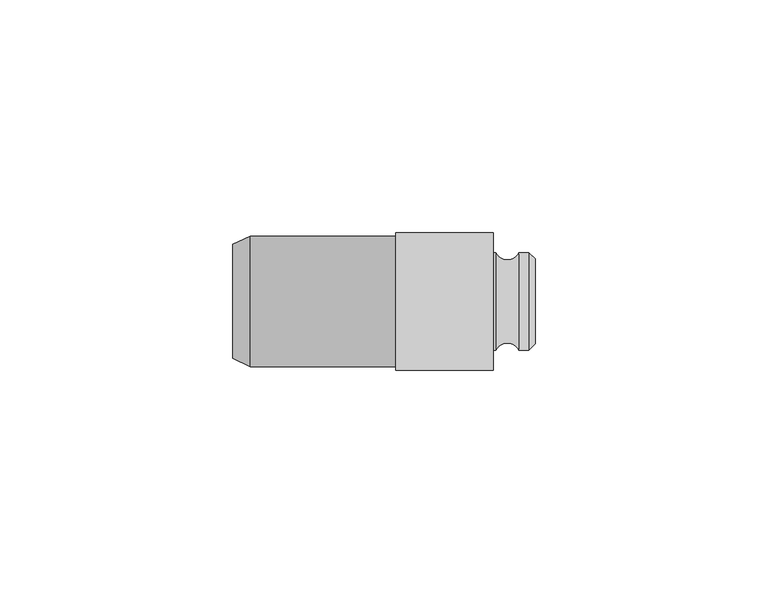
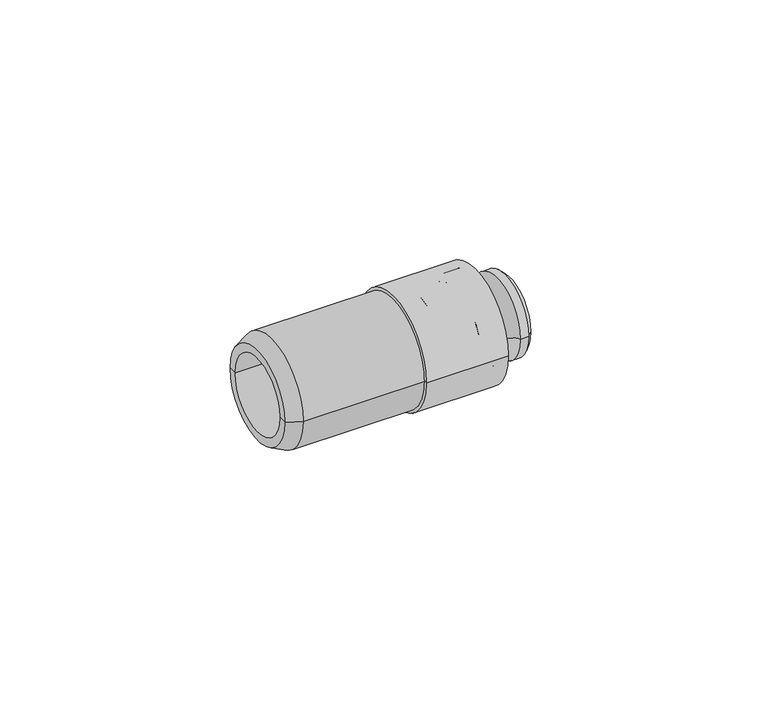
"""IFC4 building model written with IfcOpenShell, lengths in millimetres: pipe fitting geometry, NLRS_50_PIF_UN_PushFit snelkoppeling_geb : DN12-20-M25 / d16-25-M25."""

from ifc_helpers import new_model, si_unit, point, frame, origin, place, context, project, spatial, polyline, circle_curve, ellipse_curve, trimmed, source, transform, mapped, element, save
from ifc_brep_helpers import plane_surface, cylinder_surface, revolved_surface, advanced_brep


def pipe_fitting_5ea2550a(model_context):
    return source(origin(), model_context, "Body", "AdvancedBrep", [
        advanced_brep(
        [(23.5, 14.75, 0.0), (23.5, -14.75, 0.0), (2.5, -14.75, 0.0), (2.5, 14.75, 0.0), (23.5, 12.75, 0.0), (23.5, -12.75, 0.0), (7.5, 12.75, 0.0), (7.5, -12.75, 0.0), (7.5, 0.0, 0.0), (2.5, 0.0, 0.0)],
        [
            (0, 1, circle_curve(frame((23.5, 0.0, 0.0), z_axis=(-1.0, 0.0, 0.0), x_axis=(0.0, -1.0000000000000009, 0.0)), 14.75)),
            (1, 2),
            (2, 3, circle_curve(frame((2.5, 0.0, 0.0), z_axis=(1.0, 0.0, 0.0), x_axis=(0.0, -1.0000000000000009, 0.0)), 14.75)),
            (3, 0),
            (1, 0, circle_curve(frame((23.5, 0.0, 0.0), z_axis=(-1.0, 0.0, 0.0), x_axis=(0.0, -1.0000000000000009, 0.0)), 14.75)),
            (3, 2, circle_curve(frame((2.5, 0.0, 0.0), z_axis=(1.0, 0.0, 0.0), x_axis=(0.0, -1.0000000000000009, 0.0)), 14.75)),
            (4, 5, circle_curve(frame((23.5, 0.0, 0.0), z_axis=(-1.0, 0.0, 0.0), x_axis=(0.0, -1.0000000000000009, 0.0)), 12.75)),
            (5, 1),
            (0, 4),
            (5, 4, circle_curve(frame((23.5, 0.0, 0.0), z_axis=(-1.0, 0.0, 0.0), x_axis=(0.0, -1.0000000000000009, 0.0)), 12.75)),
            (6, 7, circle_curve(frame((7.5, 0.0, 0.0), z_axis=(-1.0, 0.0, 0.0), x_axis=(0.0, -1.0000000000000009, 0.0)), 12.75)),
            (7, 5),
            (4, 6),
            (7, 6, circle_curve(frame((7.5, 0.0, 0.0), z_axis=(-1.0, 0.0, 0.0), x_axis=(0.0, -1.0000000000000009, 0.0)), 12.75)),
            (8, 7),
            (6, 8),
            (2, 9),
            (9, 3),
        ],
        [
            cylinder_surface(frame((38.5, 0.0, 0.0), z_axis=(1.0000000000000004, 0.0, 0.0), x_axis=(0.0, -1.0000000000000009, 0.0)), 14.75),
            plane_surface(frame((23.5, 0.0, 0.0), z_axis=(1.0, 0.0, 0.0), x_axis=(0.0, -1.0, 0.0))),
            revolved_surface(polyline([(23.499999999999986, -12.75000000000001, 0.0), (7.499999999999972, -12.75000000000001, 0.0)]), (38.5, 0.0, 0.0), (1.0000000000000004, 0.0, 0.0)),
            plane_surface(frame((7.5, 0.0, 0.0), z_axis=(1.0, 0.0, 0.0), x_axis=(0.0, -1.0, 0.0))),
            plane_surface(frame((2.5, 0.0, 0.0), z_axis=(-1.0, 0.0, 0.0), x_axis=(0.0, -1.0, 0.0))),
        ],
        [
            (0, [[1, 2, 3, 4]]),
            (0, [[5, -4, 6, -2]]),
            (1, [[7, 8, -1, 9]]),
            (1, [[10, -9, -5, -8]]),
            (2, [[11, 12, -7, 13]]),
            (2, [[14, -13, -10, -12]]),
            (3, [[15, -11, 16]]),
            (3, [[-16, -14, -15]]),
            (4, [[-3, 17, 18]]),
            (4, [[-6, -18, -17]]),
        ],
    ),
        advanced_brep(
        [(16.1195019, 10.5, 0.0), (16.1195019, -10.5, 0.0), (8.9, -10.5, 0.0), (8.9, 10.5, 0.0), (18.8804981, 10.5, 0.0), (18.8804981, -10.5, 0.0), (24.0, 10.5, 0.0), (24.0, -10.5, 0.0), (29.0, 10.5, 0.0), (29.0, -10.5, 0.0), (31.1212479, 10.5, 0.0), (31.1212479, -10.5, 0.0), (32.5, 0.0, 0.0), (32.5, -9.1212479, 0.0), (32.5, 9.1212479, 0.0), (7.5, 12.5, 0.0), (7.5, -12.5, 0.0), (7.5, 0.0, 0.0), (8.9, 12.5, 0.0), (8.9, -12.5, 0.0)],
        [
            (0, 1, circle_curve(frame((16.1195019, 0.0, 0.0), z_axis=(-1.0, 0.0, 0.0), x_axis=(0.0, -1.0000000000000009, 0.0)), 10.5)),
            (1, 2),
            (2, 3, circle_curve(frame((8.9, 0.0, 0.0), z_axis=(1.0, 0.0, 0.0), x_axis=(0.0, -1.0000000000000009, 0.0)), 10.5)),
            (3, 0),
            (1, 0, circle_curve(frame((16.1195019, 0.0, 0.0), z_axis=(-1.0, 0.0, 0.0), x_axis=(0.0, -1.0000000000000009, 0.0)), 10.5)),
            (3, 2, circle_curve(frame((8.9, 0.0, 0.0), z_axis=(1.0, 0.0, 0.0), x_axis=(0.0, -1.0000000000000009, 0.0)), 10.5)),
            (4, 5, circle_curve(frame((18.8804981, 0.0, 0.0), z_axis=(-1.0, 0.0, 0.0), x_axis=(0.0, -1.0000000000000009, 0.0)), 10.5)),
            (5, 1, circle_curve(frame((17.5, -10.0311513, 0.0), z_axis=(0.0, 0.0, -1.0000000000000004), x_axis=(-1.0000000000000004, 0.0, 0.0)), 1.4579417)),
            (0, 4, circle_curve(frame((17.5, 10.0311513, 0.0), z_axis=(0.0, 0.0, -1.0000000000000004), x_axis=(-1.0000000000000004, 0.0, 0.0)), 1.4579417)),
            (5, 4, circle_curve(frame((18.8804981, 0.0, 0.0), z_axis=(-1.0, 0.0, 0.0), x_axis=(0.0, -1.0000000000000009, 0.0)), 10.5)),
            (6, 7, circle_curve(frame((24.0, 0.0, 0.0), z_axis=(-1.0, 0.0, 0.0), x_axis=(0.0, -1.0000000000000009, 0.0)), 10.5)),
            (7, 5),
            (4, 6),
            (7, 6, circle_curve(frame((24.0, 0.0, 0.0), z_axis=(-1.0, 0.0, 0.0), x_axis=(0.0, -1.0000000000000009, 0.0)), 10.5)),
            (8, 9, circle_curve(frame((29.0, 0.0, 0.0), z_axis=(-1.0, 0.0, 0.0), x_axis=(0.0, -1.0000000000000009, 0.0)), 10.5)),
            (9, 7, circle_curve(frame((26.5, -11.7233153, 0.0), z_axis=(0.0, 0.0, 1.0000000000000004), x_axis=(-1.0000000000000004, 0.0, 0.0)), 2.7832535)),
            (6, 8, circle_curve(frame((26.5, 11.7233153, 0.0), z_axis=(0.0, 0.0, 1.0000000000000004), x_axis=(-1.0000000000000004, 0.0, 0.0)), 2.7832535)),
            (9, 8, circle_curve(frame((29.0, 0.0, 0.0), z_axis=(-1.0, 0.0, 0.0), x_axis=(0.0, -1.0000000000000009, 0.0)), 10.5)),
            (10, 11, circle_curve(frame((31.1212479, 0.0, 0.0), z_axis=(-1.0, 0.0, 0.0), x_axis=(0.0, -1.0000000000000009, 0.0)), 10.5)),
            (11, 9),
            (8, 10),
            (11, 10, circle_curve(frame((31.1212479, 0.0, 0.0), z_axis=(-1.0, 0.0, 0.0), x_axis=(0.0, -1.0000000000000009, 0.0)), 10.5)),
            (12, 13),
            (13, 14, circle_curve(frame((32.5, 0.0, 0.0), z_axis=(1.0, 0.0, 0.0), x_axis=(0.0, -1.0000000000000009, 0.0)), 9.1212479)),
            (14, 12),
            (14, 13, circle_curve(frame((32.5, 0.0, 0.0), z_axis=(1.0, 0.0, 0.0), x_axis=(0.0, -1.0000000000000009, 0.0)), 9.1212479)),
            (15, 16, circle_curve(frame((7.5, 0.0, 0.0), z_axis=(-1.0, 0.0, 0.0), x_axis=(0.0, -1.0000000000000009, 0.0)), 12.5)),
            (16, 17),
            (17, 15),
            (16, 15, circle_curve(frame((7.5, 0.0, 0.0), z_axis=(-1.0, 0.0, 0.0), x_axis=(0.0, -1.0000000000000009, 0.0)), 12.5)),
            (18, 19, circle_curve(frame((8.9, 0.0, 0.0), z_axis=(-1.0, 0.0, 0.0), x_axis=(0.0, -1.0000000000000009, 0.0)), 12.5)),
            (19, 16, circle_curve(frame((8.2, -12.5, 0.0), z_axis=(0.0, 0.0, -1.0000000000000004), x_axis=(-1.0000000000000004, 0.0, 0.0)), 0.7)),
            (15, 18, circle_curve(frame((8.2, 12.5, 0.0), z_axis=(0.0, 0.0, -1.0000000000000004), x_axis=(-1.0000000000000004, 0.0, 0.0)), 0.7)),
            (19, 18, circle_curve(frame((8.9, 0.0, 0.0), z_axis=(-1.0, 0.0, 0.0), x_axis=(0.0, -1.0000000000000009, 0.0)), 12.5)),
            (2, 19),
            (18, 3),
            (13, 11),
            (10, 14),
        ],
        [
            cylinder_surface(frame((40.7935438, 0.0, 0.0), z_axis=(1.0000000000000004, 0.0, 0.0), x_axis=(0.0, -1.0000000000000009, 0.0)), 10.5),
            revolved_surface(trimmed(ellipse_curve(frame((17.5, -10.0311513, 0.0), z_axis=(0.0, 0.0, 1.0000000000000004), x_axis=(-1.0000000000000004, 0.0, 0.0)), 1.4579417, 1.4579417), [point((16.1195019, -10.5, 0.0))], [point((18.8804981, -10.5, 0.0))], True, "CARTESIAN"), (40.7935438, 0.0, 0.0), (1.0000000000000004, 0.0, 0.0)),
            revolved_surface(trimmed(ellipse_curve(frame((26.5, -11.7233153, 0.0), z_axis=(0.0, 0.0, -1.0000000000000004), x_axis=(-1.0000000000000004, 0.0, 0.0)), 2.7832535, 2.7832535), [point((24.0, -10.5, 0.0))], [point((29.0, -10.5, 0.0))], True, "CARTESIAN"), (40.7935438, 0.0, 0.0), (1.0000000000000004, 0.0, 0.0)),
            plane_surface(frame((32.5, 0.0, 0.0), z_axis=(1.0, 0.0, 0.0), x_axis=(0.0, -1.0, 0.0))),
            plane_surface(frame((7.5, 0.0, 0.0), z_axis=(-1.0, 0.0, 0.0), x_axis=(0.0, -1.0, 0.0))),
            revolved_surface(trimmed(ellipse_curve(frame((8.2, -12.5, 0.0), z_axis=(0.0, 0.0, 1.0000000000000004), x_axis=(-1.0000000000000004, 0.0, 0.0)), 0.7, 0.7), [point((7.5, -12.5, 0.0))], [point((8.9, -12.5, 0.0))], True, "CARTESIAN"), (40.7935438, 0.0, 0.0), (1.0000000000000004, 0.0, 0.0)),
            plane_surface(frame((8.9, 0.0, 0.0), z_axis=(1.0, 0.0, 0.0), x_axis=(0.0, -1.0, 0.0))),
            revolved_surface(polyline([(31.1212479, -10.5, 0.0), (32.5, -9.1212479, 0.0)]), (40.7935438, 0.0, 0.0), (1.0000000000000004, 0.0, 0.0)),
        ],
        [
            (0, [[1, 2, 3, 4]]),
            (0, [[5, -4, 6, -2]]),
            (1, [[7, 8, -1, 9]]),
            (1, [[10, -9, -5, -8]]),
            (0, [[11, 12, -7, 13]]),
            (0, [[14, -13, -10, -12]]),
            (2, [[15, 16, -11, 17]]),
            (2, [[18, -17, -14, -16]]),
            (0, [[19, 20, -15, 21]]),
            (0, [[22, -21, -18, -20]]),
            (3, [[23, 24, 25]]),
            (3, [[-25, 26, -23]]),
            (4, [[27, 28, 29]]),
            (4, [[30, -29, -28]]),
            (5, [[31, 32, -27, 33]]),
            (5, [[34, -33, -30, -32]]),
            (6, [[-3, 35, -31, 36]]),
            (6, [[-6, -36, -34, -35]]),
            (7, [[-24, 37, -19, 38]]),
            (7, [[-26, -38, -22, -37]]),
        ],
    ),
        advanced_brep(
        [(3.5, -14.0, 0.0), (3.5, 14.0, 0.0), (3.5, 0.0, 0.0), (-28.7471129, -14.0, 0.0), (-28.7471129, 14.0, 0.0), (-32.5, -12.25, 0.0), (-32.5, 12.25, 0.0), (-7.0, -10.0, 0.0), (-7.0, 10.0, 0.0), (-32.5, 10.0, 0.0), (-32.5, -10.0, 0.0), (-7.0, 0.0, 0.0)],
        [
            (0, 1, circle_curve(frame((3.5, 0.0, 0.0), z_axis=(1.0, 0.0, 0.0), x_axis=(0.0, 1.0, 0.0)), 14.0)),
            (1, 2),
            (2, 0),
            (1, 0, circle_curve(frame((3.5, 0.0, 0.0), z_axis=(1.0, 0.0, 0.0), x_axis=(0.0, 1.0, 0.0)), 14.0)),
            (3, 4, circle_curve(frame((-28.7471129, 0.0, 0.0), z_axis=(1.0, 0.0, 0.0), x_axis=(0.0, 1.0, 0.0)), 14.0)),
            (4, 1),
            (0, 3),
            (4, 3, circle_curve(frame((-28.7471129, 0.0, 0.0), z_axis=(1.0, 0.0, 0.0), x_axis=(0.0, 1.0, 0.0)), 14.0)),
            (5, 6, circle_curve(frame((-32.5, 0.0, 0.0), z_axis=(1.0, 0.0, 0.0), x_axis=(0.0, 1.0, 0.0)), 12.25)),
            (6, 4),
            (3, 5),
            (6, 5, circle_curve(frame((-32.5, 0.0, 0.0), z_axis=(1.0, 0.0, 0.0), x_axis=(0.0, 1.0, 0.0)), 12.25)),
            (7, 8, circle_curve(frame((-7.0, 0.0, 0.0), z_axis=(1.0, 0.0, 0.0), x_axis=(0.0, 1.0, 0.0)), 10.0)),
            (8, 9),
            (9, 10, circle_curve(frame((-32.5, 0.0, 0.0), z_axis=(-1.0, 0.0, 0.0), x_axis=(0.0, 1.0, 0.0)), 10.0)),
            (10, 7),
            (8, 7, circle_curve(frame((-7.0, 0.0, 0.0), z_axis=(1.0, 0.0, 0.0), x_axis=(0.0, 1.0, 0.0)), 10.0)),
            (10, 9, circle_curve(frame((-32.5, 0.0, 0.0), z_axis=(-1.0, 0.0, 0.0), x_axis=(0.0, 1.0, 0.0)), 10.0)),
            (11, 8),
            (7, 11),
            (9, 6),
            (5, 10),
        ],
        [
            plane_surface(frame((3.5, 0.0, 0.0), z_axis=(1.0, 0.0, 0.0), x_axis=(0.0, 1.0, 0.0))),
            cylinder_surface(frame((-42.5, 0.0, 0.0), z_axis=(-1.0, 0.0, 0.0), x_axis=(0.0, 1.0, 0.0)), 14.0),
            revolved_surface(polyline([(-28.7471129, 14.0, 0.0), (-32.5, 12.25, 0.0)]), (-42.5, 0.0, 0.0), (-1.0, 0.0, 0.0)),
            revolved_surface(polyline([(-32.5, 10.0, 0.0), (-7.0, 10.0, 0.0)]), (-42.5, 0.0, 0.0), (-1.0, 0.0, 0.0)),
            plane_surface(frame((-7.0, 0.0, 0.0), z_axis=(-1.0, 0.0, 0.0), x_axis=(0.0, 1.0, 0.0))),
            plane_surface(frame((-32.5, 0.0, 0.0), z_axis=(-1.0, 0.0, 0.0), x_axis=(0.0, 1.0, 0.0))),
        ],
        [
            (0, [[1, 2, 3]]),
            (0, [[4, -3, -2]]),
            (1, [[5, 6, -1, 7]]),
            (1, [[8, -7, -4, -6]]),
            (2, [[9, 10, -5, 11]]),
            (2, [[12, -11, -8, -10]]),
            (3, [[13, 14, 15, 16]]),
            (3, [[17, -16, 18, -14]]),
            (4, [[19, -13, 20]]),
            (4, [[-20, -17, -19]]),
            (5, [[-15, 21, -9, 22]]),
            (5, [[-18, -22, -12, -21]]),
        ],
    ),
    ])


if __name__ == "__main__":
    model = new_model("IFC4")
    model_context = context("Model", 3, world=origin())
    ifc_project = project(units=[si_unit("LENGTHUNIT", "METRE", prefix="MILLI")], contexts=[model_context])
    site = spatial("IfcSite", under=ifc_project)
    building = spatial("IfcBuilding", under=site)
    placement = place(None, origin())
    pipe_fitting_shape = pipe_fitting_5ea2550a(model_context)
    element("IfcPipeFitting", 1, ObjectType="NLRS_50_PIF_UN_PushFit snelkoppeling_geb : DN12-20-M25 / d16-25-M25", at=placement, inside=building, context=model_context, shape_type="MappedRepresentation", body=[
        mapped(pipe_fitting_shape, transform((0.0, 0.0, 0.0), x_axis=(1.0, 0.0, 0.0), y_axis=(0.0, 1.0, 0.0), z_axis=(0.0, 0.0, 1.0))),
    ])
    save(model, "model.ifc")
